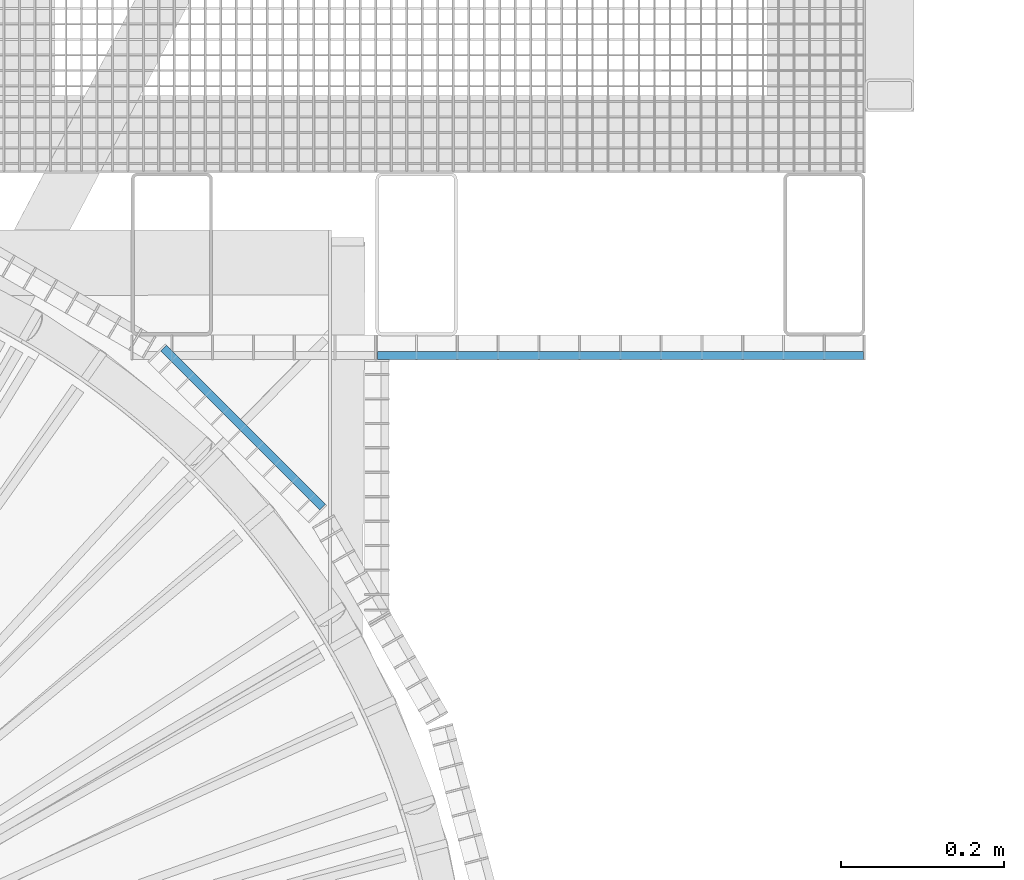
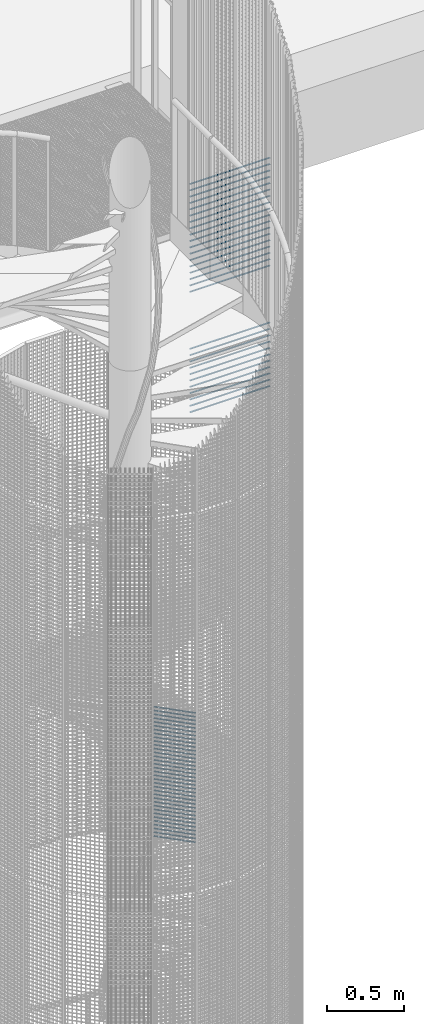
# One storey, part 307 of 1183: 64 beams, 2 elements without a shape of their own.
"""IFC2X3 building model written with IfcOpenShell, lengths in millimetres."""

from ifc_helpers import new_model, si_unit, frame, origin_with_axes, origin_2d_with_axis, place, context, subcontext, project, spatial, rectangle, extrude, material, type_object, element, aggregate, save


model = new_model("IFC2X3")

# Units and contexts
model_context = context("Model", 3, precision=1e-05, world=origin_with_axes())
body_context = subcontext(model_context, "Body", "Model", "MODEL_VIEW")
ifc_project = project(units=[si_unit("LENGTHUNIT", "METRE", prefix="MILLI"), si_unit("AREAUNIT", "SQUARE_METRE"), si_unit("VOLUMEUNIT", "CUBIC_METRE"), si_unit("MASSUNIT", "GRAM", prefix="KILO"), si_unit("TIMEUNIT", "SECOND"), si_unit("PLANEANGLEUNIT", "RADIAN"), si_unit("SOLIDANGLEUNIT", "STERADIAN"), si_unit("THERMODYNAMICTEMPERATUREUNIT", "DEGREE_CELSIUS"), si_unit("LUMINOUSINTENSITYUNIT", "LUMEN")], contexts=[model_context])

# Site, building, storey
site_placement = place(None, origin_with_axes())
site = spatial("IfcSite", under=ifc_project, at=site_placement, Name="Undefined", CompositionType="ELEMENT")
building_placement = place(site_placement, origin_with_axes())
building = spatial("IfcBuilding", under=site, at=building_placement, Name="Undefined", CompositionType="ELEMENT")
storey_placement = place(building_placement, origin_with_axes())
storey = spatial("IfcBuildingStorey", under=building, at=storey_placement, Name="Undefined", CompositionType="ELEMENT", Elevation=0.0)

# Assembly, beams
assembly_1_placement = place(storey_placement, origin_with_axes())
assembly_1 = element("IfcElementAssembly", 1, at=assembly_1_placement, inside=storey, Name="BORDURE", AssemblyPlace="NOTDEFINED", PredefinedType="NOTDEFINED")
ifc_material = material(Name="STEEL/S235JR")
beam_type = type_object("IfcBeamType", Name="PL2*10", PredefinedType="NOTDEFINED")
beam_1_placement = place(assembly_1_placement, frame((952.069589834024, 876.014689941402, 6154.998), z_axis=(0.0, -1.0, 0.0), x_axis=(1.0, 0.0, 0.0)))
beam_1 = element("IfcBeam", 2, at=beam_1_placement, type_object=beam_type, material=ifc_material, Name="ENTRETOISE", context=body_context, shape_type="SweptSolid", body=[
    extrude(rectangle(XDim=2.0, YDim=10.0, at=origin_2d_with_axis()), frame((596.0, 0.0, 0.0), z_axis=(-1.0, 0.0, 0.0), x_axis=(0.0, -1.0, 0.0)), (0.0, 0.0, 1.0), 596.0),
])
beam_2_placement = place(assembly_1_placement, frame((952.069589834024, 876.014689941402, 6204.998), z_axis=(0.0, -1.0, 0.0), x_axis=(1.0, 0.0, 0.0)))
beam_2 = element("IfcBeam", 3, at=beam_2_placement, type_object=beam_type, material=ifc_material, Name="ENTRETOISE", context=body_context, shape_type="SweptSolid", body=[
    extrude(rectangle(XDim=2.0, YDim=10.0, at=origin_2d_with_axis()), frame((596.0, 0.0, 0.0), z_axis=(-1.0, 0.0, 0.0), x_axis=(0.0, -1.0, 0.0)), (0.0, 0.0, 1.0), 596.0),
])
beam_3_placement = place(assembly_1_placement, frame((952.069589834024, 876.014689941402, 5704.998), z_axis=(0.0, -1.0, 0.0), x_axis=(1.0, 0.0, 0.0)))
beam_3 = element("IfcBeam", 4, at=beam_3_placement, type_object=beam_type, material=ifc_material, Name="ENTRETOISE", context=body_context, shape_type="SweptSolid", body=[
    extrude(rectangle(XDim=2.0, YDim=10.0, at=origin_2d_with_axis()), frame((596.0, 0.0, 0.0), z_axis=(-1.0, 0.0, 0.0), x_axis=(0.0, -1.0, 0.0)), (0.0, 0.0, 1.0), 596.0),
])
beam_4_placement = place(assembly_1_placement, frame((952.069589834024, 876.014689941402, 6254.998), z_axis=(0.0, -1.0, 0.0), x_axis=(1.0, 0.0, 0.0)))
beam_4 = element("IfcBeam", 5, at=beam_4_placement, type_object=beam_type, material=ifc_material, Name="ENTRETOISE", context=body_context, shape_type="SweptSolid", body=[
    extrude(rectangle(XDim=2.0, YDim=10.0, at=origin_2d_with_axis()), frame((596.0, 0.0, 0.0), z_axis=(-1.0, 0.0, 0.0), x_axis=(0.0, -1.0, 0.0)), (0.0, 0.0, 1.0), 596.0),
])
beam_5_placement = place(assembly_1_placement, frame((952.069589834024, 876.014689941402, 5654.998), z_axis=(0.0, -1.0, 0.0), x_axis=(1.0, 0.0, 0.0)))
beam_5 = element("IfcBeam", 6, at=beam_5_placement, type_object=beam_type, material=ifc_material, Name="ENTRETOISE", context=body_context, shape_type="SweptSolid", body=[
    extrude(rectangle(XDim=2.0, YDim=10.0, at=origin_2d_with_axis()), frame((596.0, 0.0, 0.0), z_axis=(-1.0, 0.0, 0.0), x_axis=(0.0, -1.0, 0.0)), (0.0, 0.0, 1.0), 596.0),
])
beam_6_placement = place(assembly_1_placement, frame((952.069589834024, 876.014689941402, 6304.998), z_axis=(0.0, -1.0, 0.0), x_axis=(1.0, 0.0, 0.0)))
beam_6 = element("IfcBeam", 7, at=beam_6_placement, type_object=beam_type, material=ifc_material, Name="ENTRETOISE", context=body_context, shape_type="SweptSolid", body=[
    extrude(rectangle(XDim=2.0, YDim=10.0, at=origin_2d_with_axis()), frame((596.0, 0.0, 0.0), z_axis=(-1.0, 0.0, 0.0), x_axis=(0.0, -1.0, 0.0)), (0.0, 0.0, 1.0), 596.0),
])
beam_7_placement = place(assembly_1_placement, frame((952.069589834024, 876.014689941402, 6354.998), z_axis=(0.0, -1.0, 0.0), x_axis=(1.0, 0.0, 0.0)))
beam_7 = element("IfcBeam", 8, at=beam_7_placement, type_object=beam_type, material=ifc_material, Name="ENTRETOISE", context=body_context, shape_type="SweptSolid", body=[
    extrude(rectangle(XDim=2.0, YDim=10.0, at=origin_2d_with_axis()), frame((596.0, 0.0, 0.0), z_axis=(-1.0, 0.0, 0.0), x_axis=(0.0, -1.0, 0.0)), (0.0, 0.0, 1.0), 596.0),
])
beam_8_placement = place(assembly_1_placement, frame((952.069589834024, 876.014689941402, 5604.998), z_axis=(0.0, -1.0, 0.0), x_axis=(1.0, 0.0, 0.0)))
beam_8 = element("IfcBeam", 9, at=beam_8_placement, type_object=beam_type, material=ifc_material, Name="ENTRETOISE", context=body_context, shape_type="SweptSolid", body=[
    extrude(rectangle(XDim=2.0, YDim=10.0, at=origin_2d_with_axis()), frame((596.0, 0.0, 0.0), z_axis=(-1.0, 0.0, 0.0), x_axis=(0.0, -1.0, 0.0)), (0.0, 0.0, 1.0), 596.0),
])
beam_9_placement = place(assembly_1_placement, frame((952.069589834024, 876.014689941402, 6404.998), z_axis=(0.0, -1.0, 0.0), x_axis=(1.0, 0.0, 0.0)))
beam_9 = element("IfcBeam", 10, at=beam_9_placement, type_object=beam_type, material=ifc_material, Name="ENTRETOISE", context=body_context, shape_type="SweptSolid", body=[
    extrude(rectangle(XDim=2.0, YDim=10.0, at=origin_2d_with_axis()), frame((596.0, 0.0, 0.0), z_axis=(-1.0, 0.0, 0.0), x_axis=(0.0, -1.0, 0.0)), (0.0, 0.0, 1.0), 596.0),
])
beam_10_placement = place(assembly_1_placement, frame((952.069589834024, 876.014689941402, 6454.998), z_axis=(0.0, -1.0, 0.0), x_axis=(1.0, 0.0, 0.0)))
beam_10 = element("IfcBeam", 11, at=beam_10_placement, type_object=beam_type, material=ifc_material, Name="ENTRETOISE", context=body_context, shape_type="SweptSolid", body=[
    extrude(rectangle(XDim=2.0, YDim=10.0, at=origin_2d_with_axis()), frame((596.0, 0.0, 0.0), z_axis=(-1.0, 0.0, 0.0), x_axis=(0.0, -1.0, 0.0)), (0.0, 0.0, 1.0), 596.0),
])
beam_11_placement = place(assembly_1_placement, frame((952.069589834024, 876.014689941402, 5554.998), z_axis=(0.0, -1.0, 0.0), x_axis=(1.0, 0.0, 0.0)))
beam_11 = element("IfcBeam", 12, at=beam_11_placement, type_object=beam_type, material=ifc_material, Name="ENTRETOISE", context=body_context, shape_type="SweptSolid", body=[
    extrude(rectangle(XDim=2.0, YDim=10.0, at=origin_2d_with_axis()), frame((596.0, 0.0, 0.0), z_axis=(-1.0, 0.0, 0.0), x_axis=(0.0, -1.0, 0.0)), (0.0, 0.0, 1.0), 596.0),
])
beam_12_placement = place(assembly_1_placement, frame((952.069589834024, 876.014689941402, 6504.998), z_axis=(0.0, -1.0, 0.0), x_axis=(1.0, 0.0, 0.0)))
beam_12 = element("IfcBeam", 13, at=beam_12_placement, type_object=beam_type, material=ifc_material, Name="ENTRETOISE", context=body_context, shape_type="SweptSolid", body=[
    extrude(rectangle(XDim=2.0, YDim=10.0, at=origin_2d_with_axis()), frame((596.0, 0.0, 0.0), z_axis=(-1.0, 0.0, 0.0), x_axis=(0.0, -1.0, 0.0)), (0.0, 0.0, 1.0), 596.0),
])
beam_13_placement = place(assembly_1_placement, frame((952.069589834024, 876.014689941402, 5504.998), z_axis=(0.0, -1.0, 0.0), x_axis=(1.0, 0.0, 0.0)))
beam_13 = element("IfcBeam", 14, at=beam_13_placement, type_object=beam_type, material=ifc_material, Name="ENTRETOISE", context=body_context, shape_type="SweptSolid", body=[
    extrude(rectangle(XDim=2.0, YDim=10.0, at=origin_2d_with_axis()), frame((596.0, 0.0, 0.0), z_axis=(-1.0, 0.0, 0.0), x_axis=(0.0, -1.0, 0.0)), (0.0, 0.0, 1.0), 596.0),
])
beam_14_placement = place(assembly_1_placement, frame((952.069589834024, 876.014689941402, 6554.998), z_axis=(0.0, -1.0, 0.0), x_axis=(1.0, 0.0, 0.0)))
beam_14 = element("IfcBeam", 15, at=beam_14_placement, type_object=beam_type, material=ifc_material, Name="ENTRETOISE", context=body_context, shape_type="SweptSolid", body=[
    extrude(rectangle(XDim=2.0, YDim=10.0, at=origin_2d_with_axis()), frame((596.0, 0.0, 0.0), z_axis=(-1.0, 0.0, 0.0), x_axis=(0.0, -1.0, 0.0)), (0.0, 0.0, 1.0), 596.0),
])
beam_15_placement = place(assembly_1_placement, frame((952.069589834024, 876.014689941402, 6604.998), z_axis=(0.0, -1.0, 0.0), x_axis=(1.0, 0.0, 0.0)))
beam_15 = element("IfcBeam", 16, at=beam_15_placement, type_object=beam_type, material=ifc_material, Name="ENTRETOISE", context=body_context, shape_type="SweptSolid", body=[
    extrude(rectangle(XDim=2.0, YDim=10.0, at=origin_2d_with_axis()), frame((596.0, 0.0, 0.0), z_axis=(-1.0, 0.0, 0.0), x_axis=(0.0, -1.0, 0.0)), (0.0, 0.0, 1.0), 596.0),
])
beam_16_placement = place(assembly_1_placement, frame((952.069589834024, 876.014689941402, 5454.998), z_axis=(0.0, -1.0, 0.0), x_axis=(1.0, 0.0, 0.0)))
beam_16 = element("IfcBeam", 17, at=beam_16_placement, type_object=beam_type, material=ifc_material, Name="ENTRETOISE", context=body_context, shape_type="SweptSolid", body=[
    extrude(rectangle(XDim=2.0, YDim=10.0, at=origin_2d_with_axis()), frame((596.0, 0.0, 0.0), z_axis=(-1.0, 0.0, 0.0), x_axis=(0.0, -1.0, 0.0)), (0.0, 0.0, 1.0), 596.0),
])
beam_17_placement = place(assembly_1_placement, frame((952.069589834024, 876.014689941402, 6654.998), z_axis=(0.0, -1.0, 0.0), x_axis=(1.0, 0.0, 0.0)))
beam_17 = element("IfcBeam", 18, at=beam_17_placement, type_object=beam_type, material=ifc_material, Name="ENTRETOISE", context=body_context, shape_type="SweptSolid", body=[
    extrude(rectangle(XDim=2.0, YDim=10.0, at=origin_2d_with_axis()), frame((596.0, 0.0, 0.0), z_axis=(-1.0, 0.0, 0.0), x_axis=(0.0, -1.0, 0.0)), (0.0, 0.0, 1.0), 596.0),
])
beam_18_placement = place(assembly_1_placement, frame((952.069589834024, 876.014689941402, 5404.998), z_axis=(0.0, -1.0, 0.0), x_axis=(1.0, 0.0, 0.0)))
beam_18 = element("IfcBeam", 19, at=beam_18_placement, type_object=beam_type, material=ifc_material, Name="ENTRETOISE", context=body_context, shape_type="SweptSolid", body=[
    extrude(rectangle(XDim=2.0, YDim=10.0, at=origin_2d_with_axis()), frame((596.0, 0.0, 0.0), z_axis=(-1.0, 0.0, 0.0), x_axis=(0.0, -1.0, 0.0)), (0.0, 0.0, 1.0), 596.0),
])
beam_19_placement = place(assembly_1_placement, frame((952.069589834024, 876.014689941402, 6704.998), z_axis=(0.0, -1.0, 0.0), x_axis=(1.0, 0.0, 0.0)))
beam_19 = element("IfcBeam", 20, at=beam_19_placement, type_object=beam_type, material=ifc_material, Name="ENTRETOISE", context=body_context, shape_type="SweptSolid", body=[
    extrude(rectangle(XDim=2.0, YDim=10.0, at=origin_2d_with_axis()), frame((596.0, 0.0, 0.0), z_axis=(-1.0, 0.0, 0.0), x_axis=(0.0, -1.0, 0.0)), (0.0, 0.0, 1.0), 596.0),
])
beam_20_placement = place(assembly_1_placement, frame((952.069589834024, 876.014689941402, 6754.998), z_axis=(0.0, -1.0, 0.0), x_axis=(1.0, 0.0, 0.0)))
beam_20 = element("IfcBeam", 21, at=beam_20_placement, type_object=beam_type, material=ifc_material, Name="ENTRETOISE", context=body_context, shape_type="SweptSolid", body=[
    extrude(rectangle(XDim=2.0, YDim=10.0, at=origin_2d_with_axis()), frame((596.0, 0.0, 0.0), z_axis=(-1.0, 0.0, 0.0), x_axis=(0.0, -1.0, 0.0)), (0.0, 0.0, 1.0), 596.0),
])
beam_21_placement = place(assembly_1_placement, frame((952.069589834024, 876.014689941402, 5354.998), z_axis=(0.0, -1.0, 0.0), x_axis=(1.0, 0.0, 0.0)))
beam_21 = element("IfcBeam", 22, at=beam_21_placement, type_object=beam_type, material=ifc_material, Name="ENTRETOISE", context=body_context, shape_type="SweptSolid", body=[
    extrude(rectangle(XDim=2.0, YDim=10.0, at=origin_2d_with_axis()), frame((596.0, 0.0, 0.0), z_axis=(-1.0, 0.0, 0.0), x_axis=(0.0, -1.0, 0.0)), (0.0, 0.0, 1.0), 596.0),
])
beam_22_placement = place(assembly_1_placement, frame((952.069589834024, 876.014689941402, 6804.998), z_axis=(0.0, -1.0, 0.0), x_axis=(1.0, 0.0, 0.0)))
beam_22 = element("IfcBeam", 23, at=beam_22_placement, type_object=beam_type, material=ifc_material, Name="ENTRETOISE", context=body_context, shape_type="SweptSolid", body=[
    extrude(rectangle(XDim=2.0, YDim=10.0, at=origin_2d_with_axis()), frame((596.0, 0.0, 0.0), z_axis=(-1.0, 0.0, 0.0), x_axis=(0.0, -1.0, 0.0)), (0.0, 0.0, 1.0), 596.0),
])
beam_23_placement = place(assembly_1_placement, frame((952.069589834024, 876.014689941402, 6854.998), z_axis=(0.0, -1.0, 0.0), x_axis=(1.0, 0.0, 0.0)))
beam_23 = element("IfcBeam", 24, at=beam_23_placement, type_object=beam_type, material=ifc_material, Name="ENTRETOISE", context=body_context, shape_type="SweptSolid", body=[
    extrude(rectangle(XDim=2.0, YDim=10.0, at=origin_2d_with_axis()), frame((596.0, 0.0, 0.0), z_axis=(-1.0, 0.0, 0.0), x_axis=(0.0, -1.0, 0.0)), (0.0, 0.0, 1.0), 596.0),
])
beam_24_placement = place(assembly_1_placement, frame((952.069589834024, 876.014689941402, 5304.998), z_axis=(0.0, -1.0, 0.0), x_axis=(1.0, 0.0, 0.0)))
beam_24 = element("IfcBeam", 25, at=beam_24_placement, type_object=beam_type, material=ifc_material, Name="ENTRETOISE", context=body_context, shape_type="SweptSolid", body=[
    extrude(rectangle(XDim=2.0, YDim=10.0, at=origin_2d_with_axis()), frame((596.0, 0.0, 0.0), z_axis=(-1.0, 0.0, 0.0), x_axis=(0.0, -1.0, 0.0)), (0.0, 0.0, 1.0), 596.0),
])
beam_25_placement = place(assembly_1_placement, frame((952.069589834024, 876.014689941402, 6904.998), z_axis=(0.0, -1.0, 0.0), x_axis=(1.0, 0.0, 0.0)))
beam_25 = element("IfcBeam", 26, at=beam_25_placement, type_object=beam_type, material=ifc_material, Name="ENTRETOISE", context=body_context, shape_type="SweptSolid", body=[
    extrude(rectangle(XDim=2.0, YDim=10.0, at=origin_2d_with_axis()), frame((596.0, 0.0, 0.0), z_axis=(-1.0, 0.0, 0.0), x_axis=(0.0, -1.0, 0.0)), (0.0, 0.0, 1.0), 596.0),
])
beam_26_placement = place(assembly_1_placement, frame((952.069589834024, 876.014689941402, 5254.998), z_axis=(0.0, -1.0, 0.0), x_axis=(1.0, 0.0, 0.0)))
beam_26 = element("IfcBeam", 27, at=beam_26_placement, type_object=beam_type, material=ifc_material, Name="ENTRETOISE", context=body_context, shape_type="SweptSolid", body=[
    extrude(rectangle(XDim=2.0, YDim=10.0, at=origin_2d_with_axis()), frame((596.0, 0.0, 0.0), z_axis=(-1.0, 0.0, 0.0), x_axis=(0.0, -1.0, 0.0)), (0.0, 0.0, 1.0), 596.0),
])
beam_27_placement = place(assembly_1_placement, frame((952.069589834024, 876.014689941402, 6954.998), z_axis=(0.0, -1.0, 0.0), x_axis=(1.0, 0.0, 0.0)))
beam_27 = element("IfcBeam", 28, at=beam_27_placement, type_object=beam_type, material=ifc_material, Name="ENTRETOISE", context=body_context, shape_type="SweptSolid", body=[
    extrude(rectangle(XDim=2.0, YDim=10.0, at=origin_2d_with_axis()), frame((596.0, 0.0, 0.0), z_axis=(-1.0, 0.0, 0.0), x_axis=(0.0, -1.0, 0.0)), (0.0, 0.0, 1.0), 596.0),
])
beam_28_placement = place(assembly_1_placement, frame((952.069589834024, 876.014689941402, 7004.998), z_axis=(0.0, -1.0, 0.0), x_axis=(1.0, 0.0, 0.0)))
beam_28 = element("IfcBeam", 29, at=beam_28_placement, type_object=beam_type, material=ifc_material, Name="ENTRETOISE", context=body_context, shape_type="SweptSolid", body=[
    extrude(rectangle(XDim=2.0, YDim=10.0, at=origin_2d_with_axis()), frame((596.0, 0.0, 0.0), z_axis=(-1.0, 0.0, 0.0), x_axis=(0.0, -1.0, 0.0)), (0.0, 0.0, 1.0), 596.0),
])
beam_29_placement = place(assembly_1_placement, frame((952.069589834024, 876.014689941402, 5204.998), z_axis=(0.0, -1.0, 0.0), x_axis=(1.0, 0.0, 0.0)))
beam_29 = element("IfcBeam", 30, at=beam_29_placement, type_object=beam_type, material=ifc_material, Name="ENTRETOISE", context=body_context, shape_type="SweptSolid", body=[
    extrude(rectangle(XDim=2.0, YDim=10.0, at=origin_2d_with_axis()), frame((596.0, 0.0, 0.0), z_axis=(-1.0, 0.0, 0.0), x_axis=(0.0, -1.0, 0.0)), (0.0, 0.0, 1.0), 596.0),
])
aggregate(assembly_1, [beam_1, beam_2, beam_3, beam_4, beam_5, beam_6, beam_7, beam_8, beam_9, beam_10, beam_11, beam_12, beam_13, beam_14, beam_15, beam_16, beam_17, beam_18, beam_19, beam_20, beam_21, beam_22, beam_23, beam_24, beam_25, beam_26, beam_27, beam_28, beam_29])

assembly_2_placement = place(storey_placement, origin_with_axes())
assembly_2 = element("IfcElementAssembly", 31, at=assembly_2_placement, inside=storey, Name="BORDURE", AssemblyPlace="NOTDEFINED", PredefinedType="NOTDEFINED")
beam_30_placement = place(assembly_2_placement, frame((884.927168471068, 689.771348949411, 2970.0), z_axis=(0.707106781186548, 0.707106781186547, 0.0), x_axis=(-0.707106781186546, 0.707106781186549, 0.0)))
beam_30 = element("IfcBeam", 32, at=beam_30_placement, type_object=beam_type, material=ifc_material, Name="ENTRETOISE", context=body_context, shape_type="SweptSolid", body=[
    extrude(rectangle(XDim=2.0, YDim=10.0, at=origin_2d_with_axis()), frame((275.999999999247, 9.09494701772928e-13, 1.53210777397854e-14), z_axis=(-1.0, 0.0, 0.0), x_axis=(0.0, -1.0, 0.0)), (0.0, 0.0, 1.0), 276.0),
])
beam_31_placement = place(assembly_2_placement, frame((884.927168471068, 689.771348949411, 2940.0), z_axis=(0.707106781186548, 0.707106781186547, 0.0), x_axis=(-0.707106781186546, 0.707106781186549, 0.0)))
beam_31 = element("IfcBeam", 33, at=beam_31_placement, type_object=beam_type, material=ifc_material, Name="ENTRETOISE", context=body_context, shape_type="SweptSolid", body=[
    extrude(rectangle(XDim=2.0, YDim=10.0, at=origin_2d_with_axis()), frame((275.999999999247, 9.09494701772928e-13, 1.53210777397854e-14), z_axis=(-1.0, 0.0, 0.0), x_axis=(0.0, -1.0, 0.0)), (0.0, 0.0, 1.0), 276.0),
])
beam_32_placement = place(assembly_2_placement, frame((884.927168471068, 689.771348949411, 2910.0), z_axis=(0.707106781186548, 0.707106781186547, 0.0), x_axis=(-0.707106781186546, 0.707106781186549, 0.0)))
beam_32 = element("IfcBeam", 34, at=beam_32_placement, type_object=beam_type, material=ifc_material, Name="ENTRETOISE", context=body_context, shape_type="SweptSolid", body=[
    extrude(rectangle(XDim=2.0, YDim=10.0, at=origin_2d_with_axis()), frame((275.999999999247, 9.09494701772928e-13, 1.53210777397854e-14), z_axis=(-1.0, 0.0, 0.0), x_axis=(0.0, -1.0, 0.0)), (0.0, 0.0, 1.0), 276.0),
])
beam_33_placement = place(assembly_2_placement, frame((884.927168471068, 689.771348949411, 2880.0), z_axis=(0.707106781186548, 0.707106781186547, 0.0), x_axis=(-0.707106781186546, 0.707106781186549, 0.0)))
beam_33 = element("IfcBeam", 35, at=beam_33_placement, type_object=beam_type, material=ifc_material, Name="ENTRETOISE", context=body_context, shape_type="SweptSolid", body=[
    extrude(rectangle(XDim=2.0, YDim=10.0, at=origin_2d_with_axis()), frame((275.999999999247, 9.09494701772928e-13, 1.53210777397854e-14), z_axis=(-1.0, 0.0, 0.0), x_axis=(0.0, -1.0, 0.0)), (0.0, 0.0, 1.0), 276.0),
])
beam_34_placement = place(assembly_2_placement, frame((884.927168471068, 689.771348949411, 2850.0), z_axis=(0.707106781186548, 0.707106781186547, 0.0), x_axis=(-0.707106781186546, 0.707106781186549, 0.0)))
beam_34 = element("IfcBeam", 36, at=beam_34_placement, type_object=beam_type, material=ifc_material, Name="ENTRETOISE", context=body_context, shape_type="SweptSolid", body=[
    extrude(rectangle(XDim=2.0, YDim=10.0, at=origin_2d_with_axis()), frame((275.999999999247, 9.09494701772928e-13, 1.53210777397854e-14), z_axis=(-1.0, 0.0, 0.0), x_axis=(0.0, -1.0, 0.0)), (0.0, 0.0, 1.0), 276.0),
])
beam_35_placement = place(assembly_2_placement, frame((884.927168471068, 689.771348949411, 2820.0), z_axis=(0.707106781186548, 0.707106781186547, 0.0), x_axis=(-0.707106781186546, 0.707106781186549, 0.0)))
beam_35 = element("IfcBeam", 37, at=beam_35_placement, type_object=beam_type, material=ifc_material, Name="ENTRETOISE", context=body_context, shape_type="SweptSolid", body=[
    extrude(rectangle(XDim=2.0, YDim=10.0, at=origin_2d_with_axis()), frame((275.999999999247, 9.09494701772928e-13, 1.53210777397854e-14), z_axis=(-1.0, 0.0, 0.0), x_axis=(0.0, -1.0, 0.0)), (0.0, 0.0, 1.0), 276.0),
])
beam_36_placement = place(assembly_2_placement, frame((884.927168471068, 689.771348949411, 2790.0), z_axis=(0.707106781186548, 0.707106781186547, 0.0), x_axis=(-0.707106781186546, 0.707106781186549, 0.0)))
beam_36 = element("IfcBeam", 38, at=beam_36_placement, type_object=beam_type, material=ifc_material, Name="ENTRETOISE", context=body_context, shape_type="SweptSolid", body=[
    extrude(rectangle(XDim=2.0, YDim=10.0, at=origin_2d_with_axis()), frame((275.999999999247, 9.09494701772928e-13, 1.53210777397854e-14), z_axis=(-1.0, 0.0, 0.0), x_axis=(0.0, -1.0, 0.0)), (0.0, 0.0, 1.0), 276.0),
])
beam_37_placement = place(assembly_2_placement, frame((884.927168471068, 689.771348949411, 2760.0), z_axis=(0.707106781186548, 0.707106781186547, 0.0), x_axis=(-0.707106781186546, 0.707106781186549, 0.0)))
beam_37 = element("IfcBeam", 39, at=beam_37_placement, type_object=beam_type, material=ifc_material, Name="ENTRETOISE", context=body_context, shape_type="SweptSolid", body=[
    extrude(rectangle(XDim=2.0, YDim=10.0, at=origin_2d_with_axis()), frame((275.999999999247, 9.09494701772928e-13, 1.53210777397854e-14), z_axis=(-1.0, 0.0, 0.0), x_axis=(0.0, -1.0, 0.0)), (0.0, 0.0, 1.0), 276.0),
])
beam_38_placement = place(assembly_2_placement, frame((884.927168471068, 689.771348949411, 2730.0), z_axis=(0.707106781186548, 0.707106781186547, 0.0), x_axis=(-0.707106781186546, 0.707106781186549, 0.0)))
beam_38 = element("IfcBeam", 40, at=beam_38_placement, type_object=beam_type, material=ifc_material, Name="ENTRETOISE", context=body_context, shape_type="SweptSolid", body=[
    extrude(rectangle(XDim=2.0, YDim=10.0, at=origin_2d_with_axis()), frame((275.999999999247, 9.09494701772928e-13, 1.53210777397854e-14), z_axis=(-1.0, 0.0, 0.0), x_axis=(0.0, -1.0, 0.0)), (0.0, 0.0, 1.0), 276.0),
])
beam_39_placement = place(assembly_2_placement, frame((884.927168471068, 689.771348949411, 2700.0), z_axis=(0.707106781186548, 0.707106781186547, 0.0), x_axis=(-0.707106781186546, 0.707106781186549, 0.0)))
beam_39 = element("IfcBeam", 41, at=beam_39_placement, type_object=beam_type, material=ifc_material, Name="ENTRETOISE", context=body_context, shape_type="SweptSolid", body=[
    extrude(rectangle(XDim=2.0, YDim=10.0, at=origin_2d_with_axis()), frame((275.999999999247, 9.09494701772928e-13, 1.53210777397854e-14), z_axis=(-1.0, 0.0, 0.0), x_axis=(0.0, -1.0, 0.0)), (0.0, 0.0, 1.0), 276.0),
])
beam_40_placement = place(assembly_2_placement, frame((884.927168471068, 689.771348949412, 2670.0), z_axis=(0.707106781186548, 0.707106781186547, 0.0), x_axis=(-0.707106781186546, 0.707106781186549, 0.0)))
beam_40 = element("IfcBeam", 42, at=beam_40_placement, type_object=beam_type, material=ifc_material, Name="ENTRETOISE", context=body_context, shape_type="SweptSolid", body=[
    extrude(rectangle(XDim=2.0, YDim=10.0, at=origin_2d_with_axis()), frame((275.999999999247, 9.09494701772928e-13, 1.53210777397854e-14), z_axis=(-1.0, 0.0, 0.0), x_axis=(0.0, -1.0, 0.0)), (0.0, 0.0, 1.0), 276.0),
])
beam_41_placement = place(assembly_2_placement, frame((884.927168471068, 689.771348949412, 2640.0), z_axis=(0.707106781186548, 0.707106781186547, 0.0), x_axis=(-0.707106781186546, 0.707106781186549, 0.0)))
beam_41 = element("IfcBeam", 43, at=beam_41_placement, type_object=beam_type, material=ifc_material, Name="ENTRETOISE", context=body_context, shape_type="SweptSolid", body=[
    extrude(rectangle(XDim=2.0, YDim=10.0, at=origin_2d_with_axis()), frame((275.999999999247, 9.09494701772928e-13, 1.53210777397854e-14), z_axis=(-1.0, 0.0, 0.0), x_axis=(0.0, -1.0, 0.0)), (0.0, 0.0, 1.0), 276.0),
])
beam_42_placement = place(assembly_2_placement, frame((884.927168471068, 689.771348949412, 2610.0), z_axis=(0.707106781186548, 0.707106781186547, 0.0), x_axis=(-0.707106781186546, 0.707106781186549, 0.0)))
beam_42 = element("IfcBeam", 44, at=beam_42_placement, type_object=beam_type, material=ifc_material, Name="ENTRETOISE", context=body_context, shape_type="SweptSolid", body=[
    extrude(rectangle(XDim=2.0, YDim=10.0, at=origin_2d_with_axis()), frame((275.999999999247, 9.09494701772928e-13, 1.53210777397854e-14), z_axis=(-1.0, 0.0, 0.0), x_axis=(0.0, -1.0, 0.0)), (0.0, 0.0, 1.0), 276.0),
])
beam_43_placement = place(assembly_2_placement, frame((884.927168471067, 689.771348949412, 2580.0), z_axis=(0.707106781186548, 0.707106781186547, 0.0), x_axis=(-0.707106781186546, 0.707106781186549, 0.0)))
beam_43 = element("IfcBeam", 45, at=beam_43_placement, type_object=beam_type, material=ifc_material, Name="ENTRETOISE", context=body_context, shape_type="SweptSolid", body=[
    extrude(rectangle(XDim=2.0, YDim=10.0, at=origin_2d_with_axis()), frame((275.999999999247, 9.09494701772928e-13, 1.53210777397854e-14), z_axis=(-1.0, 0.0, 0.0), x_axis=(0.0, -1.0, 0.0)), (0.0, 0.0, 1.0), 276.0),
])
beam_44_placement = place(assembly_2_placement, frame((884.927168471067, 689.771348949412, 2550.0), z_axis=(0.707106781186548, 0.707106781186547, 0.0), x_axis=(-0.707106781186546, 0.707106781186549, 0.0)))
beam_44 = element("IfcBeam", 46, at=beam_44_placement, type_object=beam_type, material=ifc_material, Name="ENTRETOISE", context=body_context, shape_type="SweptSolid", body=[
    extrude(rectangle(XDim=2.0, YDim=10.0, at=origin_2d_with_axis()), frame((275.999999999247, 9.09494701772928e-13, 1.53210777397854e-14), z_axis=(-1.0, 0.0, 0.0), x_axis=(0.0, -1.0, 0.0)), (0.0, 0.0, 1.0), 276.0),
])
beam_45_placement = place(assembly_2_placement, frame((884.927168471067, 689.771348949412, 2520.0), z_axis=(0.707106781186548, 0.707106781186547, 0.0), x_axis=(-0.707106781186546, 0.707106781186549, 0.0)))
beam_45 = element("IfcBeam", 47, at=beam_45_placement, type_object=beam_type, material=ifc_material, Name="ENTRETOISE", context=body_context, shape_type="SweptSolid", body=[
    extrude(rectangle(XDim=2.0, YDim=10.0, at=origin_2d_with_axis()), frame((275.999999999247, 9.09494701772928e-13, 1.53210777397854e-14), z_axis=(-1.0, 0.0, 0.0), x_axis=(0.0, -1.0, 0.0)), (0.0, 0.0, 1.0), 276.0),
])
beam_46_placement = place(assembly_2_placement, frame((884.927168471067, 689.771348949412, 2490.0), z_axis=(0.707106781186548, 0.707106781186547, 0.0), x_axis=(-0.707106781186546, 0.707106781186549, 0.0)))
beam_46 = element("IfcBeam", 48, at=beam_46_placement, type_object=beam_type, material=ifc_material, Name="ENTRETOISE", context=body_context, shape_type="SweptSolid", body=[
    extrude(rectangle(XDim=2.0, YDim=10.0, at=origin_2d_with_axis()), frame((275.999999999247, 9.09494701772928e-13, 1.53210777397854e-14), z_axis=(-1.0, 0.0, 0.0), x_axis=(0.0, -1.0, 0.0)), (0.0, 0.0, 1.0), 276.0),
])
beam_47_placement = place(assembly_2_placement, frame((884.927168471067, 689.771348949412, 2460.0), z_axis=(0.707106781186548, 0.707106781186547, 0.0), x_axis=(-0.707106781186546, 0.707106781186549, 0.0)))
beam_47 = element("IfcBeam", 49, at=beam_47_placement, type_object=beam_type, material=ifc_material, Name="ENTRETOISE", context=body_context, shape_type="SweptSolid", body=[
    extrude(rectangle(XDim=2.0, YDim=10.0, at=origin_2d_with_axis()), frame((275.999999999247, 9.09494701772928e-13, 1.53210777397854e-14), z_axis=(-1.0, 0.0, 0.0), x_axis=(0.0, -1.0, 0.0)), (0.0, 0.0, 1.0), 276.0),
])
beam_48_placement = place(assembly_2_placement, frame((884.927168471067, 689.771348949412, 2430.0), z_axis=(0.707106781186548, 0.707106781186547, 0.0), x_axis=(-0.707106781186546, 0.707106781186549, 0.0)))
beam_48 = element("IfcBeam", 50, at=beam_48_placement, type_object=beam_type, material=ifc_material, Name="ENTRETOISE", context=body_context, shape_type="SweptSolid", body=[
    extrude(rectangle(XDim=2.0, YDim=10.0, at=origin_2d_with_axis()), frame((275.999999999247, 9.09494701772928e-13, 1.53210777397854e-14), z_axis=(-1.0, 0.0, 0.0), x_axis=(0.0, -1.0, 0.0)), (0.0, 0.0, 1.0), 276.0),
])
beam_49_placement = place(assembly_2_placement, frame((884.927168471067, 689.771348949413, 2400.0), z_axis=(0.707106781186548, 0.707106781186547, 0.0), x_axis=(-0.707106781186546, 0.707106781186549, 0.0)))
beam_49 = element("IfcBeam", 51, at=beam_49_placement, type_object=beam_type, material=ifc_material, Name="ENTRETOISE", context=body_context, shape_type="SweptSolid", body=[
    extrude(rectangle(XDim=2.0, YDim=10.0, at=origin_2d_with_axis()), frame((275.999999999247, 9.09494701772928e-13, 1.53210777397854e-14), z_axis=(-1.0, 0.0, 0.0), x_axis=(0.0, -1.0, 0.0)), (0.0, 0.0, 1.0), 276.0),
])
beam_50_placement = place(assembly_2_placement, frame((884.927168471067, 689.771348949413, 2370.0), z_axis=(0.707106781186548, 0.707106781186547, 0.0), x_axis=(-0.707106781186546, 0.707106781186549, 0.0)))
beam_50 = element("IfcBeam", 52, at=beam_50_placement, type_object=beam_type, material=ifc_material, Name="ENTRETOISE", context=body_context, shape_type="SweptSolid", body=[
    extrude(rectangle(XDim=2.0, YDim=10.0, at=origin_2d_with_axis()), frame((275.999999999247, 9.09494701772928e-13, 1.53210777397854e-14), z_axis=(-1.0, 0.0, 0.0), x_axis=(0.0, -1.0, 0.0)), (0.0, 0.0, 1.0), 276.0),
])
beam_51_placement = place(assembly_2_placement, frame((884.927168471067, 689.771348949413, 2340.0), z_axis=(0.707106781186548, 0.707106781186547, 0.0), x_axis=(-0.707106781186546, 0.707106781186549, 0.0)))
beam_51 = element("IfcBeam", 53, at=beam_51_placement, type_object=beam_type, material=ifc_material, Name="ENTRETOISE", context=body_context, shape_type="SweptSolid", body=[
    extrude(rectangle(XDim=2.0, YDim=10.0, at=origin_2d_with_axis()), frame((275.999999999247, 9.09494701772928e-13, 1.53210777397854e-14), z_axis=(-1.0, 0.0, 0.0), x_axis=(0.0, -1.0, 0.0)), (0.0, 0.0, 1.0), 276.0),
])
beam_52_placement = place(assembly_2_placement, frame((884.927168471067, 689.771348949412, 2310.0), z_axis=(0.707106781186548, 0.707106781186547, 0.0), x_axis=(-0.707106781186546, 0.707106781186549, 0.0)))
beam_52 = element("IfcBeam", 54, at=beam_52_placement, type_object=beam_type, material=ifc_material, Name="ENTRETOISE", context=body_context, shape_type="SweptSolid", body=[
    extrude(rectangle(XDim=2.0, YDim=10.0, at=origin_2d_with_axis()), frame((275.999999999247, 9.09494701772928e-13, 1.53210777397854e-14), z_axis=(-1.0, 0.0, 0.0), x_axis=(0.0, -1.0, 0.0)), (0.0, 0.0, 1.0), 276.0),
])
beam_53_placement = place(assembly_2_placement, frame((884.927168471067, 689.771348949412, 2280.0), z_axis=(0.707106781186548, 0.707106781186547, 0.0), x_axis=(-0.707106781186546, 0.707106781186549, 0.0)))
beam_53 = element("IfcBeam", 55, at=beam_53_placement, type_object=beam_type, material=ifc_material, Name="ENTRETOISE", context=body_context, shape_type="SweptSolid", body=[
    extrude(rectangle(XDim=2.0, YDim=10.0, at=origin_2d_with_axis()), frame((275.999999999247, 9.09494701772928e-13, 1.53210777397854e-14), z_axis=(-1.0, 0.0, 0.0), x_axis=(0.0, -1.0, 0.0)), (0.0, 0.0, 1.0), 276.0),
])
beam_54_placement = place(assembly_2_placement, frame((884.927168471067, 689.771348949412, 2250.0), z_axis=(0.707106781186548, 0.707106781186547, 0.0), x_axis=(-0.707106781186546, 0.707106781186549, 0.0)))
beam_54 = element("IfcBeam", 56, at=beam_54_placement, type_object=beam_type, material=ifc_material, Name="ENTRETOISE", context=body_context, shape_type="SweptSolid", body=[
    extrude(rectangle(XDim=2.0, YDim=10.0, at=origin_2d_with_axis()), frame((275.999999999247, 9.09494701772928e-13, 1.53210777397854e-14), z_axis=(-1.0, 0.0, 0.0), x_axis=(0.0, -1.0, 0.0)), (0.0, 0.0, 1.0), 276.0),
])
beam_55_placement = place(assembly_2_placement, frame((884.927168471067, 689.771348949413, 2220.0), z_axis=(0.707106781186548, 0.707106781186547, 0.0), x_axis=(-0.707106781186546, 0.707106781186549, 0.0)))
beam_55 = element("IfcBeam", 57, at=beam_55_placement, type_object=beam_type, material=ifc_material, Name="ENTRETOISE", context=body_context, shape_type="SweptSolid", body=[
    extrude(rectangle(XDim=2.0, YDim=10.0, at=origin_2d_with_axis()), frame((275.999999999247, 9.09494701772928e-13, 1.53210777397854e-14), z_axis=(-1.0, 0.0, 0.0), x_axis=(0.0, -1.0, 0.0)), (0.0, 0.0, 1.0), 276.0),
])
beam_56_placement = place(assembly_2_placement, frame((884.927168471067, 689.771348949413, 2190.0), z_axis=(0.707106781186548, 0.707106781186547, 0.0), x_axis=(-0.707106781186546, 0.707106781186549, 0.0)))
beam_56 = element("IfcBeam", 58, at=beam_56_placement, type_object=beam_type, material=ifc_material, Name="ENTRETOISE", context=body_context, shape_type="SweptSolid", body=[
    extrude(rectangle(XDim=2.0, YDim=10.0, at=origin_2d_with_axis()), frame((275.999999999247, 9.09494701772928e-13, 1.53210777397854e-14), z_axis=(-1.0, 0.0, 0.0), x_axis=(0.0, -1.0, 0.0)), (0.0, 0.0, 1.0), 276.0),
])
beam_57_placement = place(assembly_2_placement, frame((884.927168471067, 689.771348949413, 2160.0), z_axis=(0.707106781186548, 0.707106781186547, 0.0), x_axis=(-0.707106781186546, 0.707106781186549, 0.0)))
beam_57 = element("IfcBeam", 59, at=beam_57_placement, type_object=beam_type, material=ifc_material, Name="ENTRETOISE", context=body_context, shape_type="SweptSolid", body=[
    extrude(rectangle(XDim=2.0, YDim=10.0, at=origin_2d_with_axis()), frame((275.999999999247, 9.09494701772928e-13, 1.53210777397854e-14), z_axis=(-1.0, 0.0, 0.0), x_axis=(0.0, -1.0, 0.0)), (0.0, 0.0, 1.0), 276.0),
])
beam_58_placement = place(assembly_2_placement, frame((884.927168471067, 689.771348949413, 2130.0), z_axis=(0.707106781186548, 0.707106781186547, 0.0), x_axis=(-0.707106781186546, 0.707106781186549, 0.0)))
beam_58 = element("IfcBeam", 60, at=beam_58_placement, type_object=beam_type, material=ifc_material, Name="ENTRETOISE", context=body_context, shape_type="SweptSolid", body=[
    extrude(rectangle(XDim=2.0, YDim=10.0, at=origin_2d_with_axis()), frame((275.999999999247, 9.09494701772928e-13, 1.53210777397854e-14), z_axis=(-1.0, 0.0, 0.0), x_axis=(0.0, -1.0, 0.0)), (0.0, 0.0, 1.0), 276.0),
])
beam_59_placement = place(assembly_2_placement, frame((884.927168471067, 689.771348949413, 2100.0), z_axis=(0.707106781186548, 0.707106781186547, 0.0), x_axis=(-0.707106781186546, 0.707106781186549, 0.0)))
beam_59 = element("IfcBeam", 61, at=beam_59_placement, type_object=beam_type, material=ifc_material, Name="ENTRETOISE", context=body_context, shape_type="SweptSolid", body=[
    extrude(rectangle(XDim=2.0, YDim=10.0, at=origin_2d_with_axis()), frame((275.999999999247, 9.09494701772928e-13, 1.53210777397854e-14), z_axis=(-1.0, 0.0, 0.0), x_axis=(0.0, -1.0, 0.0)), (0.0, 0.0, 1.0), 276.0),
])
beam_60_placement = place(assembly_2_placement, frame((884.927168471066, 689.771348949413, 2070.0), z_axis=(0.707106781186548, 0.707106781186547, 0.0), x_axis=(-0.707106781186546, 0.707106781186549, 0.0)))
beam_60 = element("IfcBeam", 62, at=beam_60_placement, type_object=beam_type, material=ifc_material, Name="ENTRETOISE", context=body_context, shape_type="SweptSolid", body=[
    extrude(rectangle(XDim=2.0, YDim=10.0, at=origin_2d_with_axis()), frame((275.999999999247, 9.09494701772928e-13, 1.53210777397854e-14), z_axis=(-1.0, 0.0, 0.0), x_axis=(0.0, -1.0, 0.0)), (0.0, 0.0, 1.0), 276.0),
])
beam_61_placement = place(assembly_2_placement, frame((884.927168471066, 689.771348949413, 2040.0), z_axis=(0.707106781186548, 0.707106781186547, 0.0), x_axis=(-0.707106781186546, 0.707106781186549, 0.0)))
beam_61 = element("IfcBeam", 63, at=beam_61_placement, type_object=beam_type, material=ifc_material, Name="ENTRETOISE", context=body_context, shape_type="SweptSolid", body=[
    extrude(rectangle(XDim=2.0, YDim=10.0, at=origin_2d_with_axis()), frame((275.999999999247, 9.09494701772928e-13, 1.53210777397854e-14), z_axis=(-1.0, 0.0, 0.0), x_axis=(0.0, -1.0, 0.0)), (0.0, 0.0, 1.0), 276.0),
])
beam_62_placement = place(assembly_2_placement, frame((884.927168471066, 689.771348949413, 2010.0), z_axis=(0.707106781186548, 0.707106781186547, 0.0), x_axis=(-0.707106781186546, 0.707106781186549, 0.0)))
beam_62 = element("IfcBeam", 64, at=beam_62_placement, type_object=beam_type, material=ifc_material, Name="ENTRETOISE", context=body_context, shape_type="SweptSolid", body=[
    extrude(rectangle(XDim=2.0, YDim=10.0, at=origin_2d_with_axis()), frame((275.999999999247, 9.09494701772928e-13, 1.53210777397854e-14), z_axis=(-1.0, 0.0, 0.0), x_axis=(0.0, -1.0, 0.0)), (0.0, 0.0, 1.0), 276.0),
])
beam_63_placement = place(assembly_2_placement, frame((884.927168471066, 689.771348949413, 1980.0), z_axis=(0.707106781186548, 0.707106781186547, 0.0), x_axis=(-0.707106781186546, 0.707106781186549, 0.0)))
beam_63 = element("IfcBeam", 65, at=beam_63_placement, type_object=beam_type, material=ifc_material, Name="ENTRETOISE", context=body_context, shape_type="SweptSolid", body=[
    extrude(rectangle(XDim=2.0, YDim=10.0, at=origin_2d_with_axis()), frame((275.999999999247, 9.09494701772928e-13, 1.53210777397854e-14), z_axis=(-1.0, 0.0, 0.0), x_axis=(0.0, -1.0, 0.0)), (0.0, 0.0, 1.0), 276.0),
])
beam_64_placement = place(assembly_2_placement, frame((884.927168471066, 689.771348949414, 1950.0), z_axis=(0.707106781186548, 0.707106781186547, 0.0), x_axis=(-0.707106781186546, 0.707106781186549, 0.0)))
beam_64 = element("IfcBeam", 66, at=beam_64_placement, type_object=beam_type, material=ifc_material, Name="ENTRETOISE", context=body_context, shape_type="SweptSolid", body=[
    extrude(rectangle(XDim=2.0, YDim=10.0, at=origin_2d_with_axis()), frame((275.999999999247, 9.09494701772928e-13, 1.53210777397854e-14), z_axis=(-1.0, 0.0, 0.0), x_axis=(0.0, -1.0, 0.0)), (0.0, 0.0, 1.0), 276.0),
])
aggregate(assembly_2, [beam_30, beam_31, beam_32, beam_33, beam_34, beam_35, beam_36, beam_37, beam_38, beam_39, beam_40, beam_41, beam_42, beam_43, beam_44, beam_45, beam_46, beam_47, beam_48, beam_49, beam_50, beam_51, beam_52, beam_53, beam_54, beam_55, beam_56, beam_57, beam_58, beam_59, beam_60, beam_61, beam_62, beam_63, beam_64])

save(model, "model.ifc")
